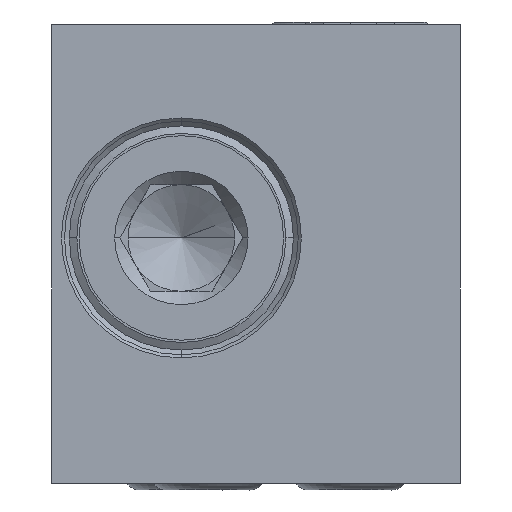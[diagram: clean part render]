
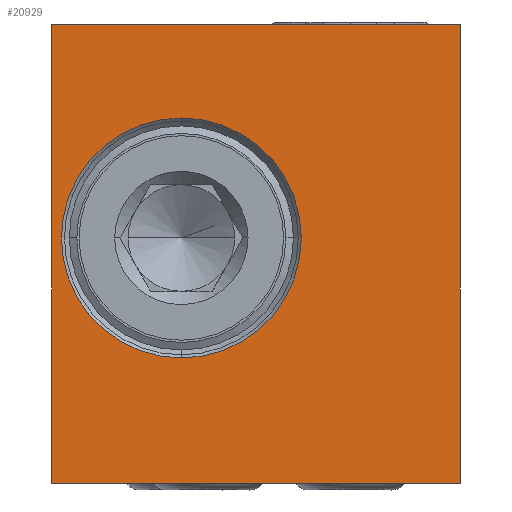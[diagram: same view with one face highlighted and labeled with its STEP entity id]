
A CAD part, left-side view. The second image highlights one B-rep face of the part: STEP entity #20929.
In plain terms, the highlighted planar face has unit normal (-1, 0, 0).
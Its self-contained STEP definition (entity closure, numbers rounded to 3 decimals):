
#3809=DIRECTION('',(0.,0.,1.));
#3810=VECTOR('',#3809,25.8);
#3811=CARTESIAN_POINT('',(-38.,11.5,-12.9));
#3812=LINE('',#3811,#3810);
#3813=DIRECTION('',(0.,-1.,0.));
#3814=VECTOR('',#3813,23.);
#3815=CARTESIAN_POINT('',(-38.,11.5,12.9));
#3816=LINE('',#3815,#3814);
#3817=DIRECTION('',(0.,0.,-1.));
#3818=VECTOR('',#3817,25.8);
#3819=CARTESIAN_POINT('',(-38.,-11.5,12.9));
#3820=LINE('',#3819,#3818);
#3821=DIRECTION('',(0.,1.,0.));
#3822=VECTOR('',#3821,23.);
#3823=CARTESIAN_POINT('',(-38.,-11.5,-12.9));
#3824=LINE('',#3823,#3822);
#3825=CARTESIAN_POINT('',(-38.,4.2,0.9));
#3826=DIRECTION('',(-1.,0.,0.));
#3827=DIRECTION('',(0.,0.,-1.));
#3828=AXIS2_PLACEMENT_3D('',#3825,#3826,#3827);
#3830=CARTESIAN_POINT('',(-38.,4.2,0.9));
#3831=DIRECTION('',(-1.,0.,0.));
#3832=DIRECTION('',(0.,0.,1.));
#3833=AXIS2_PLACEMENT_3D('',#3830,#3831,#3832);
#14335=CARTESIAN_POINT('',(-38.,11.5,12.9));
#14336=VERTEX_POINT('',#14335);
#14337=CARTESIAN_POINT('',(-38.,11.5,-12.9));
#14338=VERTEX_POINT('',#14337);
#14339=CARTESIAN_POINT('',(-38.,-11.5,12.9));
#14340=VERTEX_POINT('',#14339);
#14361=CARTESIAN_POINT('',(-38.,-11.5,-12.9));
#14362=VERTEX_POINT('',#14361);
#14407=CARTESIAN_POINT('',(-38.,4.2,-5.85));
#14408=CARTESIAN_POINT('',(-38.,4.2,7.65));
#14409=VERTEX_POINT('',#14407);
#14410=VERTEX_POINT('',#14408);
#20910=CARTESIAN_POINT('',(-38.,0.,0.));
#20911=DIRECTION('',(-1.,0.,0.));
#20912=DIRECTION('',(0.,-1.,0.));
#20913=AXIS2_PLACEMENT_3D('',#20910,#20911,#20912);
#20914=PLANE('',#20913);
#20915=ORIENTED_EDGE('',*,*,#20903,.T.);
#20916=ORIENTED_EDGE('',*,*,#18769,.T.);
#20918=ORIENTED_EDGE('',*,*,#20917,.T.);
#20920=ORIENTED_EDGE('',*,*,#20919,.T.);
#20921=EDGE_LOOP('',(#20915,#20916,#20918,#20920));
#20922=FACE_OUTER_BOUND('',#20921,.F.);
#20924=ORIENTED_EDGE('',*,*,#20923,.T.);
#20926=ORIENTED_EDGE('',*,*,#20925,.T.);
#20927=EDGE_LOOP('',(#20924,#20926));
#20928=FACE_BOUND('',#20927,.F.);
#20929=ADVANCED_FACE('',(#20922,#20928),#20914,.T.);
#3829=CIRCLE('',#3828,6.75);
#3834=CIRCLE('',#3833,6.75);
#18769=EDGE_CURVE('',#14336,#14340,#3816,.T.);
#20903=EDGE_CURVE('',#14338,#14336,#3812,.T.);
#20917=EDGE_CURVE('',#14340,#14362,#3820,.T.);
#20919=EDGE_CURVE('',#14362,#14338,#3824,.T.);
#20923=EDGE_CURVE('',#14409,#14410,#3829,.T.);
#20925=EDGE_CURVE('',#14410,#14409,#3834,.T.);
